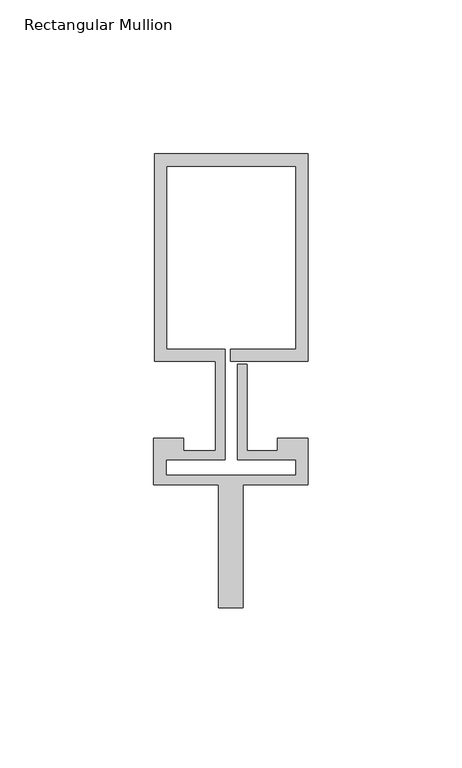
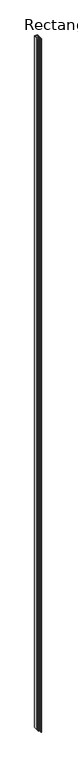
"""IFC4 building model written with IfcOpenShell, lengths in millimetres: member geometry, Rectangular Mullion : Reynaers_CW-50_Mullion-Transom_Horizontal_67.4mm_Facecap-06B."""

import ifcopenshell
import ifcopenshell.guid

model = None  # the IFC model being written
_history = None  # IfcOwnerHistory: only IFC2X3 demands one
_inside = {}  # id of a spatial element -> (the spatial element, [elements in it])
_under = {}  # id of a project, library or spatial element -> (it, [spatial elements below it])
_declared = {}  # id of a project -> (the project, [libraries it declares])
_typed = {}  # id of a type object -> (the type object, [elements of that type])
_made_of = {}  # id of a material, layer set ... -> (it, [elements and type objects made of it])


def new_model(schema):
    """Start an empty IFC model of exactly this schema.

    Asked for "IFC4X3", IfcOpenShell would pick the latest addendum, in which some entities
    have other attributes; the version numbers below select the first issue.
    IFC2X3 requires an IfcOwnerHistory on every rooted entity: one is made here for all.
    """
    global model, _history
    if schema == "IFC4X3":
        model = ifcopenshell.file(schema_version=(4, 3, 0, 0))
    else:
        model = ifcopenshell.file(schema=schema)
    _inside.clear()
    _under.clear()
    _declared.clear()
    _typed.clear()
    _made_of.clear()
    _history = None
    if model.schema == "IFC2X3":
        org = make("IfcOrganization", Name="unknown")
        user = make(
            "IfcPersonAndOrganization",
            ThePerson=make("IfcPerson", FamilyName="unknown"),
            TheOrganization=org,
        )
        app = make(
            "IfcApplication",
            ApplicationDeveloper=org,
            Version="unknown",
            ApplicationFullName="unknown",
            ApplicationIdentifier="unknown",
        )
        _history = make(
            "IfcOwnerHistory",
            OwningUser=user,
            OwningApplication=app,
            ChangeAction="ADDED",
            CreationDate=0,
        )
    return model


def make(cls, **values):
    """One entity of the class cls with the attributes given. An attribute that is None is left unset."""
    return model.create_entity(
        cls, **{name: value for name, value in values.items() if value is not None}
    )


def rooted(cls, **values):
    """An entity with a GlobalId (a new one), such as an element, a storey or a relation."""
    return make(cls, GlobalId=ifcopenshell.guid.new(), OwnerHistory=_history, **values)


def si_unit(unit_type, name, prefix=None):
    """IfcSIUnit, for example si_unit("LENGTHUNIT", "METRE", prefix="MILLI")."""
    return make("IfcSIUnit", UnitType=unit_type, Prefix=prefix, Name=name)


def assignment(units):
    """IfcUnitAssignment: the units of a project."""
    return None if units is None else make("IfcUnitAssignment", Units=units)


def point(xyz):
    """IfcCartesianPoint."""
    return None if xyz is None else make("IfcCartesianPoint", Coordinates=xyz)


def direction(xyz):
    """IfcDirection."""
    return None if xyz is None else make("IfcDirection", DirectionRatios=xyz)


def frame(location, z_axis=None, x_axis=None):
    """IfcAxis2Placement3D, a coordinate frame: its origin and axes. An axis left out is left unset."""
    return make(
        "IfcAxis2Placement3D",
        Location=point(location),
        Axis=direction(z_axis),
        RefDirection=direction(x_axis),
    )


def origin():
    """The frame at (0, 0, 0) with its axes left unset."""
    return frame((0.0, 0.0, 0.0))


def place(relative_to, where):
    """IfcLocalPlacement: puts the frame where relative to a parent placement (None: the world)."""
    return make(
        "IfcLocalPlacement", PlacementRelTo=relative_to, RelativePlacement=where
    )


def context(
    kind, dimensions, precision=None, world=None, true_north=None, identifier=None
):
    """IfcGeometricRepresentationContext, for example the 3D "Model" context."""
    return make(
        "IfcGeometricRepresentationContext",
        ContextIdentifier=identifier,
        ContextType=kind,
        CoordinateSpaceDimension=dimensions,
        Precision=precision,
        WorldCoordinateSystem=world,
        TrueNorth=true_north,
    )


def project(units=None, contexts=None):
    """IfcProject with its units and contexts."""
    return rooted(
        "IfcProject",
        Name="project",
        RepresentationContexts=contexts,
        UnitsInContext=assignment(units),
    )


def spatial(cls, under=None, at=None, **own):
    """A site, building, storey or space (cls), placed at a placement, below another one or the project."""
    s = rooted(cls, ObjectPlacement=at, **own)
    if under is not None:
        _under.setdefault(under.id(), (under, []))[1].append(s)
    return s


def polyline(points):
    """IfcPolyline through the points."""
    return make("IfcPolyline", Points=[point(p) for p in points])


def outline(outer, holes=None, kind="AREA"):
    """IfcArbitraryClosedProfileDef: a profile drawn as a closed curve; with holes, ...WithVoids."""
    if holes is None:
        return make("IfcArbitraryClosedProfileDef", ProfileType=kind, OuterCurve=outer)
    return make(
        "IfcArbitraryProfileDefWithVoids",
        ProfileType=kind,
        OuterCurve=outer,
        InnerCurves=holes,
    )


def extrude(swept, where, along, depth):
    """IfcExtrudedAreaSolid: the profile swept, set in the frame where, extruded along a direction by depth."""
    return make(
        "IfcExtrudedAreaSolid",
        SweptArea=swept,
        Position=where,
        ExtrudedDirection=direction(along),
        Depth=depth,
    )


def shape(context_of_items, identifier, shape_type, items):
    """IfcShapeRepresentation: the items that make up one representation, for example the "Body"."""
    return make(
        "IfcShapeRepresentation",
        ContextOfItems=context_of_items,
        RepresentationIdentifier=identifier,
        RepresentationType=shape_type,
        Items=items,
    )


def source(mapping_origin, context_of_items, identifier, shape_type, items):
    """IfcRepresentationMap: a shape defined once, which mapped items show again and again."""
    return make(
        "IfcRepresentationMap",
        MappingOrigin=mapping_origin,
        MappedRepresentation=shape(context_of_items, identifier, shape_type, items),
    )


def transform(
    local_origin,
    x_axis=None,
    y_axis=None,
    z_axis=None,
    scale=None,
    scale2=None,
    scale3=None,
    uniform=True,
):
    """IfcCartesianTransformationOperator3D, or its non-uniform kind. x_axis, y_axis, z_axis: its Axis1, 2, 3."""
    if uniform:
        return make(
            "IfcCartesianTransformationOperator3D",
            Axis1=direction(x_axis),
            Axis2=direction(y_axis),
            LocalOrigin=point(local_origin),
            Scale=scale,
            Axis3=direction(z_axis),
        )
    return make(
        "IfcCartesianTransformationOperator3DnonUniform",
        Axis1=direction(x_axis),
        Axis2=direction(y_axis),
        LocalOrigin=point(local_origin),
        Scale=scale,
        Axis3=direction(z_axis),
        Scale2=scale2,
        Scale3=scale3,
    )


def mapped(mapping_source, mapping_target):
    """IfcMappedItem: shows the shape of a source again, moved by a transform."""
    return make(
        "IfcMappedItem", MappingSource=mapping_source, MappingTarget=mapping_target
    )


def made_of(thing, what):
    """Note that an element or type object is made of a material, layer set ...; save() writes the relation."""
    if what is not None:
        _made_of.setdefault(what.id(), (what, []))[1].append(thing)
    return thing


def element(
    cls,
    number,
    at=None,
    inside=None,
    cuts=None,
    type_object=None,
    material=None,
    context=None,
    identifier="Body",
    shape_type=None,
    held_by="IfcProductDefinitionShape",
    body=None,
    shapes=None,
    **own,
):
    """One element of the class cls, such as IfcWall. Its Tag is "e" and its number.

    at: its placement. inside: the storey or other place that contains it. cuts: it is an
    opening in that element (IfcRelVoidsElement). A single representation is given by context,
    identifier, shape_type and body (its items); several are given by shapes. held_by: the class
    of the entity that holds the representations. save() writes the other relations.
    """
    e = rooted(cls, Tag="e%d" % number, ObjectPlacement=at, **own)
    if body is not None:
        shapes = [shape(context, identifier, shape_type, body)]
    if shapes is not None:
        e.Representation = make(held_by, Representations=shapes)
    if inside is not None:
        _inside.setdefault(inside.id(), (inside, []))[1].append(e)
    if cuts is not None:
        rooted(
            "IfcRelVoidsElement", RelatingBuildingElement=cuts, RelatedOpeningElement=e
        )
    if type_object is not None:
        _typed.setdefault(type_object.id(), (type_object, []))[1].append(e)
    return made_of(e, material)


def aggregate(whole, parts):
    """IfcRelAggregates: a whole, such as a stair, and the parts it consists of."""
    return rooted("IfcRelAggregates", RelatingObject=whole, RelatedObjects=parts)


def save(model, path):
    """Write the relations noted so far, then the file.

    IfcRelAggregates (storeys below a building ...), IfcRelContainedInSpatialStructure (elements
    in a storey), IfcRelDefinesByType, IfcRelAssociatesMaterial and IfcRelDeclares: one each for
    every whole, place, type object, material and project.
    """
    for whole, parts in _under.values():
        aggregate(whole, parts)
    for where, things in _inside.values():
        rooted(
            "IfcRelContainedInSpatialStructure",
            RelatedElements=things,
            RelatingStructure=where,
        )
    for kind, things in _typed.values():
        rooted("IfcRelDefinesByType", RelatedObjects=things, RelatingType=kind)
    for what, things in _made_of.values():
        rooted("IfcRelAssociatesMaterial", RelatedObjects=things, RelatingMaterial=what)
    for by, libraries in _declared.values():
        rooted("IfcRelDeclares", RelatingContext=by, RelatedDefinitions=libraries)
    model.write(path)


def rectangular_mullion_dfd6f06b(model_context):
    return source(origin(), model_context, "Body", "SweptSolid", [
        extrude(outline(polyline([(-24.8004059, 79.9), (25.1995941, 79.9), (25.1995941, 12.5), (0.0, 12.5), (0.0, 16.5), (21.1995941, 16.5), (21.1995941, 75.9), (-20.8004059, 75.9), (-20.8004059, 16.5), (-1.9004059, 16.5), (-1.9004059, -19.5), (-20.994845, -19.5), (-20.994845, -24.4191338), (21.1995941, -24.4191338), (21.1995941, -19.5), (2.2995941, -19.5), (2.2995941, 11.5), (5.2995941, 11.5), (5.2995941, -16.5), (15.2996495, -16.5), (15.2996495, -12.5), (25.1995941, -12.5), (25.1995941, -27.5), (4.004855, -27.5), (4.004855, -67.5), (-3.995145, -67.5), (-3.995145, -27.5), (-24.994845, -27.5), (-24.994845, -12.5), (-15.2996495, -12.5), (-15.2996495, -16.5), (-4.9004059, -16.5), (-4.9004059, 12.5), (-24.8004059, 12.5), (-24.8004059, 79.9)])), frame((0.0, 0.0, -12000.0), z_axis=(0.0, 0.0, 1.0), x_axis=(1.0, 0.0, 0.0)), (0.0, 0.0, 1.0), 12000.0),
    ])


if __name__ == "__main__":
    model = new_model("IFC4")
    model_context = context("Model", 3, world=origin())
    ifc_project = project(units=[si_unit("LENGTHUNIT", "METRE", prefix="MILLI")], contexts=[model_context])
    site = spatial("IfcSite", under=ifc_project)
    building = spatial("IfcBuilding", under=site)
    placement = place(None, origin())
    rectangular_mullion_shape = rectangular_mullion_dfd6f06b(model_context)
    element("IfcMember", 1, ObjectType="Rectangular Mullion : Reynaers_CW-50_Mullion-Transom_Horizontal_67.4mm_Facecap-06B", at=placement, inside=building, context=model_context, shape_type="MappedRepresentation", body=[
        mapped(rectangular_mullion_shape, transform((0.0, 0.0, 0.0), x_axis=(1.0, 0.0, 0.0), y_axis=(0.0, 1.0, 0.0), z_axis=(0.0, 0.0, 1.0))),
    ])
    save(model, "model.ifc")
